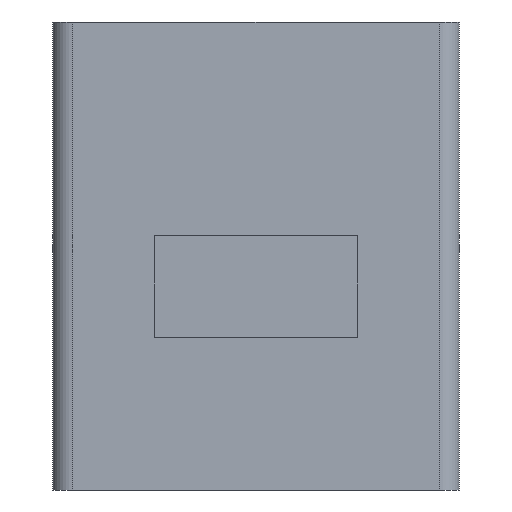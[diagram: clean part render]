
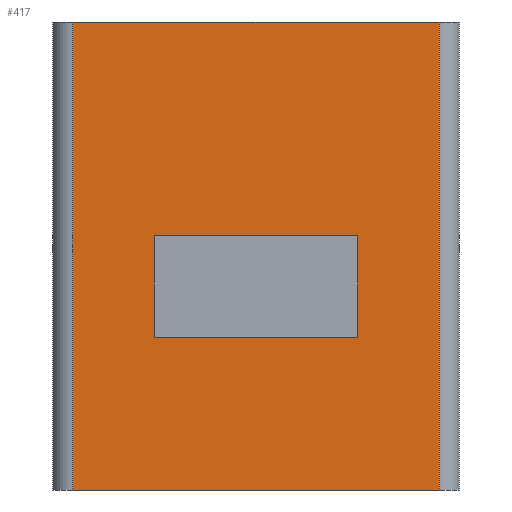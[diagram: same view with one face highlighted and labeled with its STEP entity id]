
A CAD part, front view. The second image highlights one B-rep face of the part: STEP entity #417.
In plain terms, the highlighted planar face has unit normal (0, -1, 0).
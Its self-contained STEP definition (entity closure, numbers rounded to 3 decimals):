
#12 = ORIENTED_EDGE ( 'NONE', *, *, #263, .T. ) ;
#32 = LINE ( 'NONE', #1187, #1046 ) ;
#38 = DIRECTION ( 'NONE',  ( -1., 0., 0. ) ) ;
#65 = LINE ( 'NONE', #1050, #108 ) ;
#83 = AXIS2_PLACEMENT_3D ( 'NONE', #1240, #1133, #1023 ) ;
#88 = PLANE ( 'NONE',  #83 ) ;
#108 = VECTOR ( 'NONE', #943, 1000. ) ;
#122 = VECTOR ( 'NONE', #1058, 1000. ) ;
#124 = CARTESIAN_POINT ( 'NONE',  ( -10., -10., 11.5 ) ) ;
#128 = ORIENTED_EDGE ( 'NONE', *, *, #435, .F. ) ;
#151 = CARTESIAN_POINT ( 'NONE',  ( -5., -10., -4. ) ) ;
#155 = CARTESIAN_POINT ( 'NONE',  ( -5., -10., 1. ) ) ;
#158 = CARTESIAN_POINT ( 'NONE',  ( -5., -10., 1. ) ) ;
#168 = VERTEX_POINT ( 'NONE', #682 ) ;
#189 = DIRECTION ( 'NONE',  ( 0., 0., -1. ) ) ;
#246 = EDGE_CURVE ( 'NONE', #947, #1114, #1127, .T. ) ;
#260 = VERTEX_POINT ( 'NONE', #151 ) ;
#263 = EDGE_CURVE ( 'NONE', #1114, #168, #32, .T. ) ;
#272 = LINE ( 'NONE', #124, #122 ) ;
#306 = LINE ( 'NONE', #158, #1190 ) ;
#344 = CARTESIAN_POINT ( 'NONE',  ( -5., -10., 1. ) ) ;
#370 = EDGE_CURVE ( 'NONE', #260, #1092, #1125, .T. ) ;
#373 = CARTESIAN_POINT ( 'NONE',  ( -9., -10., 11.5 ) ) ;
#417 = ADVANCED_FACE ( 'NONE', ( #1155, #988 ), #88, .F. ) ;
#422 = VECTOR ( 'NONE', #514, 1000. ) ;
#435 = EDGE_CURVE ( 'NONE', #1185, #1220, #306, .T. ) ;
#442 = ORIENTED_EDGE ( 'NONE', *, *, #449, .F. ) ;
#449 = EDGE_CURVE ( 'NONE', #947, #523, #272, .T. ) ;
#459 = CARTESIAN_POINT ( 'NONE',  ( 5., -10., 1. ) ) ;
#463 = EDGE_CURVE ( 'NONE', #168, #523, #811, .T. ) ;
#487 = CARTESIAN_POINT ( 'NONE',  ( 9., -10., 11.5 ) ) ;
#497 = CARTESIAN_POINT ( 'NONE',  ( 5., -10., -4. ) ) ;
#501 = LINE ( 'NONE', #344, #623 ) ;
#514 = DIRECTION ( 'NONE',  ( 0., 0., 1. ) ) ;
#523 = VERTEX_POINT ( 'NONE', #487 ) ;
#555 = ORIENTED_EDGE ( 'NONE', *, *, #625, .F. ) ;
#606 = EDGE_CURVE ( 'NONE', #1092, #1185, #65, .T. ) ;
#623 = VECTOR ( 'NONE', #189, 1000. ) ;
#625 = EDGE_CURVE ( 'NONE', #1220, #260, #501, .T. ) ;
#643 = VECTOR ( 'NONE', #912, 1000. ) ;
#666 = CARTESIAN_POINT ( 'NONE',  ( 9., -10., 11.5 ) ) ;
#682 = CARTESIAN_POINT ( 'NONE',  ( 9., -10., -11.5 ) ) ;
#747 = VECTOR ( 'NONE', #911, 1000. ) ;
#758 = EDGE_LOOP ( 'NONE', ( #442, #1061, #12, #941 ) ) ;
#811 = LINE ( 'NONE', #666, #422 ) ;
#846 = ORIENTED_EDGE ( 'NONE', *, *, #370, .F. ) ;
#911 = DIRECTION ( 'NONE',  ( 1., 0., 0. ) ) ;
#912 = DIRECTION ( 'NONE',  ( 0., 0., -1. ) ) ;
#922 = ORIENTED_EDGE ( 'NONE', *, *, #606, .F. ) ;
#941 = ORIENTED_EDGE ( 'NONE', *, *, #463, .T. ) ;
#943 = DIRECTION ( 'NONE',  ( 0., 0., 1. ) ) ;
#947 = VERTEX_POINT ( 'NONE', #373 ) ;
#988 = FACE_OUTER_BOUND ( 'NONE', #758, .T. ) ;
#1016 = CARTESIAN_POINT ( 'NONE',  ( -5., -10., -4. ) ) ;
#1017 = CARTESIAN_POINT ( 'NONE',  ( -9., -10., 11.5 ) ) ;
#1023 = DIRECTION ( 'NONE',  ( 0., 0., 1. ) ) ;
#1046 = VECTOR ( 'NONE', #1076, 1000. ) ;
#1050 = CARTESIAN_POINT ( 'NONE',  ( 5., -10., 1. ) ) ;
#1058 = DIRECTION ( 'NONE',  ( 1., 0., 0. ) ) ;
#1061 = ORIENTED_EDGE ( 'NONE', *, *, #246, .T. ) ;
#1076 = DIRECTION ( 'NONE',  ( 1., 0., 0. ) ) ;
#1092 = VERTEX_POINT ( 'NONE', #497 ) ;
#1103 = CARTESIAN_POINT ( 'NONE',  ( -9., -10., -11.5 ) ) ;
#1110 = EDGE_LOOP ( 'NONE', ( #128, #922, #846, #555 ) ) ;
#1114 = VERTEX_POINT ( 'NONE', #1103 ) ;
#1125 = LINE ( 'NONE', #1016, #747 ) ;
#1127 = LINE ( 'NONE', #1017, #643 ) ;
#1133 = DIRECTION ( 'NONE',  ( 0., 1., 0. ) ) ;
#1155 = FACE_BOUND ( 'NONE', #1110, .T. ) ;
#1185 = VERTEX_POINT ( 'NONE', #459 ) ;
#1187 = CARTESIAN_POINT ( 'NONE',  ( -10., -10., -11.5 ) ) ;
#1190 = VECTOR ( 'NONE', #38, 1000. ) ;
#1220 = VERTEX_POINT ( 'NONE', #155 ) ;
#1240 = CARTESIAN_POINT ( 'NONE',  ( -10., -10., 11.5 ) ) ;
